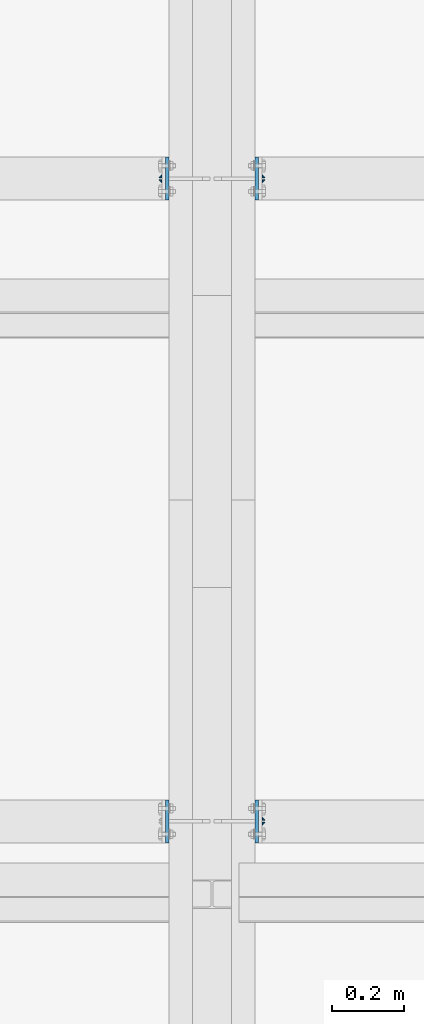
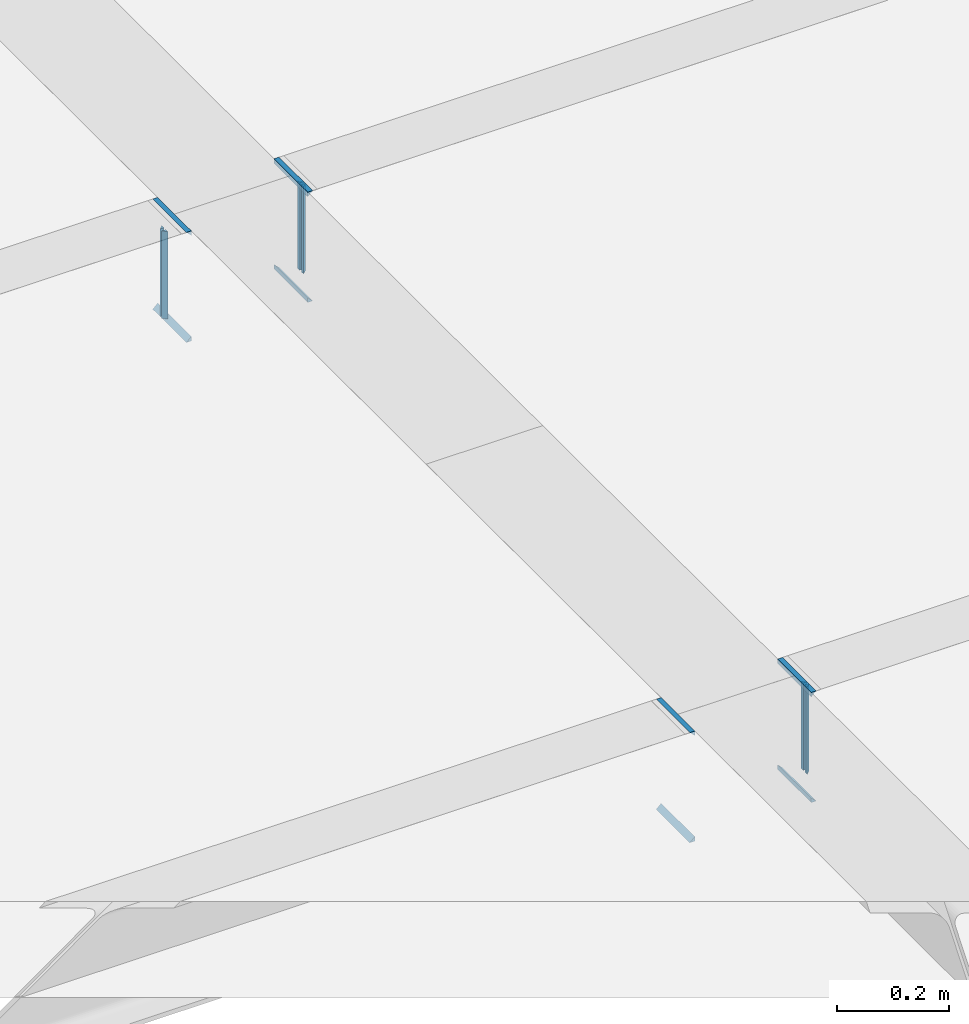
# One storey, part 15 of 66: 20 fasteners.
"""IFC4 building model written with IfcOpenShell, lengths in metres."""

from ifc_helpers import new_model, si_unit, frame, origin_with_axes, place, context, project, spatial, polyline, outline, extrude, type_object, element, save


model = new_model("IFC4")

# Units and contexts
model_context = context("Model", 3, precision=1e-05, world=origin_with_axes())
ifc_project = project(units=[si_unit("LENGTHUNIT", "METRE"), si_unit("AREAUNIT", "SQUARE_METRE"), si_unit("VOLUMEUNIT", "CUBIC_METRE"), si_unit("MASSUNIT", "GRAM", prefix="KILO"), si_unit("TIMEUNIT", "SECOND"), si_unit("PLANEANGLEUNIT", "RADIAN"), si_unit("SOLIDANGLEUNIT", "STERADIAN"), si_unit("THERMODYNAMICTEMPERATUREUNIT", "DEGREE_CELSIUS")], contexts=[model_context])

# Site, building, storey
placement_1 = place(None, origin_with_axes())
site = spatial("IfcSite", under=ifc_project, at=placement_1, Name="Italia", CompositionType="ELEMENT")
building = spatial("IfcBuilding", under=site, at=placement_1, Name="Uffici", CompositionType="ELEMENT")
storey_placement = place(None, frame((0.0, 0.0, 3.299999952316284), z_axis=(0.0, 0.0, 1.0), x_axis=(1.0, 0.0, 0.0)))
storey = spatial("IfcBuildingStorey", under=building, at=storey_placement, Name="Storey 1", CompositionType="ELEMENT", Elevation=3.299999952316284)

# Fasteners
fastener_type_1 = type_object("IfcFastenerType", Name="Collegamento -003_-002", PredefinedType="WELD")
placement_2 = place(placement_1, origin_with_axes())
fastener_1_placement = place(placement_2, origin_with_axes())
element("IfcFastener", 1, at=fastener_1_placement, inside=storey, type_object=fastener_type_1, Name="Collegamento -003_-002", context=model_context, shape_type="SweptSolid", body=[
    extrude(outline(polyline([(0.0, 0.0), (0.0101733, -0.00986814), (0.0, -0.00986814), (0.0, 0.0)])), frame((6.63505, 1.73662, 3.06982), z_axis=(0.0, 1.0, 0.0), x_axis=(-1.0, 0.0, 0.0)), (0.0, 0.0, 1.0), 0.1201),
])
fastener_type_2 = type_object("IfcFastenerType", Name="Collegamento -003_-002", PredefinedType="WELD")
fastener_2_placement = place(placement_2, origin_with_axes())
element("IfcFastener", 2, at=fastener_2_placement, inside=storey, type_object=fastener_type_2, Name="Collegamento -003_-002", context=model_context, shape_type="SweptSolid", body=[
    extrude(outline(polyline([(0.0, 0.0), (-0.0101733, 0.00986814), (0.0, 0.00986814), (0.0, 0.0)])), frame((6.63505, 1.85672, 3.29018), z_axis=(0.0, -1.0, 0.0), x_axis=(1.0, 0.0, 0.0)), (0.0, 0.0, 1.0), 0.1201),
])
fastener_type_3 = type_object("IfcFastenerType", Name="Collegamento -003_-004", PredefinedType="WELD")
fastener_3_placement = place(placement_2, origin_with_axes())
element("IfcFastener", 3, at=fastener_3_placement, inside=storey, type_object=fastener_type_3, Name="Collegamento -003_-004", context=model_context, shape_type="SweptSolid", body=[
    extrude(outline(polyline([(0.0, 0.0), (0.00792813, 0.00817347), (0.00792813, 0.0), (0.0, 0.0)])), frame((6.89495, 1.78569, 3.27525), z_axis=(0.0, 0.0, -1.0), x_axis=(0.0, 1.0, 0.0)), (0.0, 0.0, 1.0), 0.1905),
])
fastener_type_4 = type_object("IfcFastenerType", Name="Collegamento -003_-004", PredefinedType="WELD")
fastener_4_placement = place(placement_2, origin_with_axes())
element("IfcFastener", 4, at=fastener_4_placement, inside=storey, type_object=fastener_type_4, Name="Collegamento -003_-004", context=model_context, shape_type="SweptSolid", body=[
    extrude(outline(polyline([(0.0, 0.0), (-0.00792813, -0.00817347), (-0.00792813, 0.0), (0.0, 0.0)])), frame((6.89495, 1.80764, 3.08475), z_axis=(0.0, 0.0, 1.0), x_axis=(0.0, 1.0, 0.0)), (0.0, 0.0, 1.0), 0.1905),
])
fastener_type_5 = type_object("IfcFastenerType", Name="Collegamento -003_-004", PredefinedType="WELD")
fastener_5_placement = place(placement_2, origin_with_axes())
element("IfcFastener", 5, at=fastener_5_placement, inside=storey, type_object=fastener_type_5, Name="Collegamento -003_-004", context=model_context, shape_type="SweptSolid", body=[
    extrude(outline(polyline([(0.0, 0.0), (0.00792813, 0.00817347), (0.00792813, 0.0), (0.0, 0.0)])), frame((6.89495, 1.78569, 3.27525), z_axis=(0.0, 0.0, -1.0), x_axis=(0.0, 1.0, 0.0)), (0.0, 0.0, 1.0), 0.1905),
])
fastener_type_6 = type_object("IfcFastenerType", Name="Collegamento -003_-004", PredefinedType="WELD")
fastener_6_placement = place(placement_2, origin_with_axes())
element("IfcFastener", 6, at=fastener_6_placement, inside=storey, type_object=fastener_type_6, Name="Collegamento -003_-004", context=model_context, shape_type="SweptSolid", body=[
    extrude(outline(polyline([(0.0, 0.0), (-0.00792813, -0.00817347), (-0.00792813, 0.0), (0.0, 0.0)])), frame((6.89495, 1.80764, 3.08475), z_axis=(0.0, 0.0, 1.0), x_axis=(0.0, 1.0, 0.0)), (0.0, 0.0, 1.0), 0.1905),
])
fastener_type_7 = type_object("IfcFastenerType", Name="Collegamento -003_-004", PredefinedType="WELD")
fastener_7_placement = place(placement_2, origin_with_axes())
element("IfcFastener", 7, at=fastener_7_placement, inside=storey, type_object=fastener_type_7, Name="Collegamento -003_-004", context=model_context, shape_type="SweptSolid", body=[
    extrude(outline(polyline([(0.0, 0.0), (0.0101733, -0.00986814), (0.0, -0.00986814), (0.0, 0.0)])), frame((6.87495, 1.85672, 3.06982), z_axis=(0.0, -1.0, 0.0), x_axis=(1.0, 0.0, 0.0)), (0.0, 0.0, 1.0), 0.1201),
])
fastener_type_8 = type_object("IfcFastenerType", Name="Collegamento -003_-004", PredefinedType="WELD")
fastener_8_placement = place(placement_2, origin_with_axes())
element("IfcFastener", 8, at=fastener_8_placement, inside=storey, type_object=fastener_type_8, Name="Collegamento -003_-004", context=model_context, shape_type="SweptSolid", body=[
    extrude(outline(polyline([(0.0, 0.0), (-0.0101733, 0.00986814), (0.0, 0.00986814), (0.0, 0.0)])), frame((6.87495, 1.73662, 3.29018), z_axis=(0.0, 1.0, 0.0), x_axis=(-1.0, 0.0, 0.0)), (0.0, 0.0, 1.0), 0.1201),
])
fastener_type_9 = type_object("IfcFastenerType", Name="Collegamento -013_-012", PredefinedType="WELD")
fastener_9_placement = place(placement_2, origin_with_axes())
element("IfcFastener", 9, at=fastener_9_placement, inside=storey, type_object=fastener_type_9, Name="Collegamento -013_-012", context=model_context, shape_type="SweptSolid", body=[
    extrude(outline(polyline([(0.0, 0.0), (0.00792813, 0.00817347), (0.00792813, 0.0), (0.0, 0.0)])), frame((6.61505, 3.58236, 3.08475), z_axis=(0.0, 0.0, 1.0), x_axis=(0.0, 1.0, 0.0)), (0.0, 0.0, 1.0), 0.1905),
])
fastener_type_10 = type_object("IfcFastenerType", Name="Collegamento -013_-012", PredefinedType="WELD")
fastener_10_placement = place(placement_2, origin_with_axes())
element("IfcFastener", 10, at=fastener_10_placement, inside=storey, type_object=fastener_type_10, Name="Collegamento -013_-012", context=model_context, shape_type="SweptSolid", body=[
    extrude(outline(polyline([(0.0, 0.0), (-0.00792813, -0.00817347), (-0.00792813, 0.0), (0.0, 0.0)])), frame((6.61505, 3.60431, 3.27525), z_axis=(0.0, 0.0, -1.0), x_axis=(0.0, 1.0, 0.0)), (0.0, 0.0, 1.0), 0.1905),
])
fastener_type_11 = type_object("IfcFastenerType", Name="Collegamento -013_-012", PredefinedType="WELD")
fastener_11_placement = place(placement_2, origin_with_axes())
element("IfcFastener", 11, at=fastener_11_placement, inside=storey, type_object=fastener_type_11, Name="Collegamento -013_-012", context=model_context, shape_type="SweptSolid", body=[
    extrude(outline(polyline([(0.0, 0.0), (0.00792813, 0.00817347), (0.00792813, 0.0), (0.0, 0.0)])), frame((6.61505, 3.58236, 3.08475), z_axis=(0.0, 0.0, 1.0), x_axis=(0.0, 1.0, 0.0)), (0.0, 0.0, 1.0), 0.1905),
])
fastener_type_12 = type_object("IfcFastenerType", Name="Collegamento -013_-012", PredefinedType="WELD")
fastener_12_placement = place(placement_2, origin_with_axes())
element("IfcFastener", 12, at=fastener_12_placement, inside=storey, type_object=fastener_type_12, Name="Collegamento -013_-012", context=model_context, shape_type="SweptSolid", body=[
    extrude(outline(polyline([(0.0, 0.0), (-0.00792813, -0.00817347), (-0.00792813, 0.0), (0.0, 0.0)])), frame((6.61505, 3.60431, 3.27525), z_axis=(0.0, 0.0, -1.0), x_axis=(0.0, 1.0, 0.0)), (0.0, 0.0, 1.0), 0.1905),
])
fastener_type_13 = type_object("IfcFastenerType", Name="Collegamento -013_-012", PredefinedType="WELD")
fastener_13_placement = place(placement_2, origin_with_axes())
element("IfcFastener", 13, at=fastener_13_placement, inside=storey, type_object=fastener_type_13, Name="Collegamento -013_-012", context=model_context, shape_type="SweptSolid", body=[
    extrude(outline(polyline([(0.0, 0.0), (0.0101733, -0.00986814), (0.0, -0.00986814), (0.0, 0.0)])), frame((6.63505, 3.53328, 3.06982), z_axis=(0.0, 1.0, 0.0), x_axis=(-1.0, 0.0, 0.0)), (0.0, 0.0, 1.0), 0.1201),
])
fastener_type_14 = type_object("IfcFastenerType", Name="Collegamento -013_-012", PredefinedType="WELD")
fastener_14_placement = place(placement_2, origin_with_axes())
element("IfcFastener", 14, at=fastener_14_placement, inside=storey, type_object=fastener_type_14, Name="Collegamento -013_-012", context=model_context, shape_type="SweptSolid", body=[
    extrude(outline(polyline([(0.0, 0.0), (-0.0101733, 0.00986814), (0.0, 0.00986814), (0.0, 0.0)])), frame((6.63505, 3.65338, 3.29018), z_axis=(0.0, -1.0, 0.0), x_axis=(1.0, 0.0, 0.0)), (0.0, 0.0, 1.0), 0.1201),
])
fastener_type_15 = type_object("IfcFastenerType", Name="Collegamento -013_-014", PredefinedType="WELD")
fastener_15_placement = place(placement_2, origin_with_axes())
element("IfcFastener", 15, at=fastener_15_placement, inside=storey, type_object=fastener_type_15, Name="Collegamento -013_-014", context=model_context, shape_type="SweptSolid", body=[
    extrude(outline(polyline([(0.0, 0.0), (0.00792813, 0.00817347), (0.00792813, 0.0), (0.0, 0.0)])), frame((6.89495, 3.58236, 3.27525), z_axis=(0.0, 0.0, -1.0), x_axis=(0.0, 1.0, 0.0)), (0.0, 0.0, 1.0), 0.1905),
])
fastener_type_16 = type_object("IfcFastenerType", Name="Collegamento -013_-014", PredefinedType="WELD")
fastener_16_placement = place(placement_2, origin_with_axes())
element("IfcFastener", 16, at=fastener_16_placement, inside=storey, type_object=fastener_type_16, Name="Collegamento -013_-014", context=model_context, shape_type="SweptSolid", body=[
    extrude(outline(polyline([(0.0, 0.0), (-0.00792813, -0.00817347), (-0.00792813, 0.0), (0.0, 0.0)])), frame((6.89495, 3.60431, 3.08475), z_axis=(0.0, 0.0, 1.0), x_axis=(0.0, 1.0, 0.0)), (0.0, 0.0, 1.0), 0.1905),
])
fastener_type_17 = type_object("IfcFastenerType", Name="Collegamento -013_-014", PredefinedType="WELD")
fastener_17_placement = place(placement_2, origin_with_axes())
element("IfcFastener", 17, at=fastener_17_placement, inside=storey, type_object=fastener_type_17, Name="Collegamento -013_-014", context=model_context, shape_type="SweptSolid", body=[
    extrude(outline(polyline([(0.0, 0.0), (0.00792813, 0.00817347), (0.00792813, 0.0), (0.0, 0.0)])), frame((6.89495, 3.58236, 3.27525), z_axis=(0.0, 0.0, -1.0), x_axis=(0.0, 1.0, 0.0)), (0.0, 0.0, 1.0), 0.1905),
])
fastener_type_18 = type_object("IfcFastenerType", Name="Collegamento -013_-014", PredefinedType="WELD")
fastener_18_placement = place(placement_2, origin_with_axes())
element("IfcFastener", 18, at=fastener_18_placement, inside=storey, type_object=fastener_type_18, Name="Collegamento -013_-014", context=model_context, shape_type="SweptSolid", body=[
    extrude(outline(polyline([(0.0, 0.0), (-0.00792813, -0.00817347), (-0.00792813, 0.0), (0.0, 0.0)])), frame((6.89495, 3.60431, 3.08475), z_axis=(0.0, 0.0, 1.0), x_axis=(0.0, 1.0, 0.0)), (0.0, 0.0, 1.0), 0.1905),
])
fastener_type_19 = type_object("IfcFastenerType", Name="Collegamento -013_-014", PredefinedType="WELD")
fastener_19_placement = place(placement_2, origin_with_axes())
element("IfcFastener", 19, at=fastener_19_placement, inside=storey, type_object=fastener_type_19, Name="Collegamento -013_-014", context=model_context, shape_type="SweptSolid", body=[
    extrude(outline(polyline([(0.0, 0.0), (0.0101733, -0.00986814), (0.0, -0.00986814), (0.0, 0.0)])), frame((6.87495, 3.65338, 3.06982), z_axis=(0.0, -1.0, 0.0), x_axis=(1.0, 0.0, 0.0)), (0.0, 0.0, 1.0), 0.1201),
])
fastener_type_20 = type_object("IfcFastenerType", Name="Collegamento -013_-014", PredefinedType="WELD")
fastener_20_placement = place(placement_2, origin_with_axes())
element("IfcFastener", 20, at=fastener_20_placement, inside=storey, type_object=fastener_type_20, Name="Collegamento -013_-014", context=model_context, shape_type="SweptSolid", body=[
    extrude(outline(polyline([(0.0, 0.0), (-0.0101733, 0.00986814), (0.0, 0.00986814), (0.0, 0.0)])), frame((6.87495, 3.53328, 3.29018), z_axis=(0.0, 1.0, 0.0), x_axis=(-1.0, 0.0, 0.0)), (0.0, 0.0, 1.0), 0.1201),
])

save(model, "model.ifc")
